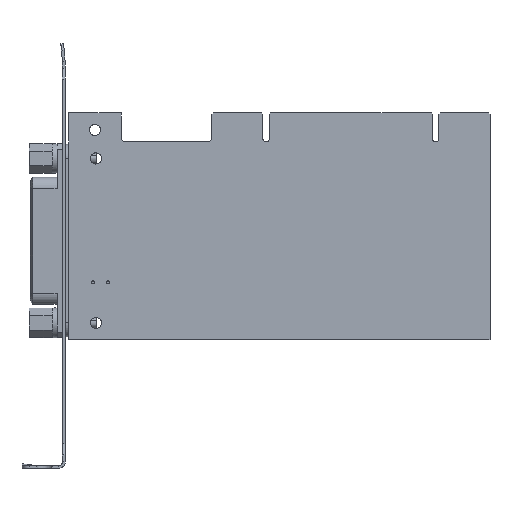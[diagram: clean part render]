
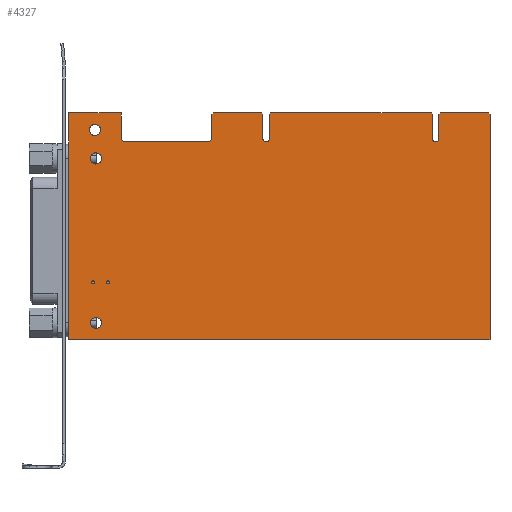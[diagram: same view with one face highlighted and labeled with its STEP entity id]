
A CAD part, left-side view. The second image highlights one B-rep face of the part: STEP entity #4327.
In plain terms, the highlighted planar face has unit normal (-1, 0, 0).
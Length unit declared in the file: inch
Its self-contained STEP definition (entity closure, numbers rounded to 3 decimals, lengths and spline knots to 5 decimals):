
#1=DIRECTION('',(0.,-1.,0.));
#2=VECTOR('',#1,4.721);
#3=CARTESIAN_POINT('',(0.,5.25,-2.54));
#4=LINE('',#3,#2);
#5=DIRECTION('',(0.,0.,1.));
#6=VECTOR('',#5,2.54);
#7=CARTESIAN_POINT('',(0.,5.25,-2.54));
#8=LINE('',#7,#6);
#9=DIRECTION('',(0.,-1.,0.));
#10=VECTOR('',#9,0.591);
#11=CARTESIAN_POINT('',(0.,5.25,0.));
#12=LINE('',#11,#10);
#13=DIRECTION('',(0.,0.,-1.));
#14=VECTOR('',#13,0.278);
#15=CARTESIAN_POINT('',(0.,4.659,0.));
#16=LINE('',#15,#14);
#17=CARTESIAN_POINT('',(0.,4.612,-0.278));
#18=DIRECTION('',(-1.,0.,0.));
#19=DIRECTION('',(0.,1.,0.));
#20=AXIS2_PLACEMENT_3D('',#17,#18,#19);
#22=DIRECTION('',(0.,-1.,0.));
#23=VECTOR('',#22,0.92);
#24=CARTESIAN_POINT('',(0.,4.612,-0.325));
#25=LINE('',#24,#23);
#26=CARTESIAN_POINT('',(0.,3.692,-0.278));
#27=DIRECTION('',(-1.,0.,0.));
#28=DIRECTION('',(0.,0.,-1.));
#29=AXIS2_PLACEMENT_3D('',#26,#27,#28);
#31=DIRECTION('',(0.,0.,1.));
#32=VECTOR('',#31,0.263);
#33=CARTESIAN_POINT('',(0.,3.645,-0.278));
#34=LINE('',#33,#32);
#35=DIRECTION('',(0.,-1.,0.));
#36=VECTOR('',#35,0.5415);
#37=CARTESIAN_POINT('',(0.,3.63,0.));
#38=LINE('',#37,#36);
#39=DIRECTION('',(0.,0.,-1.));
#40=VECTOR('',#39,0.2735);
#41=CARTESIAN_POINT('',(0.,3.0735,-0.015));
#42=LINE('',#41,#40);
#43=CARTESIAN_POINT('',(0.,3.037,-0.2885));
#44=DIRECTION('',(1.,0.,0.));
#45=DIRECTION('',(0.,-1.,0.));
#46=AXIS2_PLACEMENT_3D('',#43,#44,#45);
#48=DIRECTION('',(0.,0.,-1.));
#49=VECTOR('',#48,0.2735);
#50=CARTESIAN_POINT('',(0.,3.0005,-0.015));
#51=LINE('',#50,#49);
#52=DIRECTION('',(0.,-1.,0.));
#53=VECTOR('',#52,1.797);
#54=CARTESIAN_POINT('',(0.,2.9855,0.));
#55=LINE('',#54,#53);
#56=DIRECTION('',(0.,0.,-1.));
#57=VECTOR('',#56,0.2735);
#58=CARTESIAN_POINT('',(0.,1.1735,-0.015));
#59=LINE('',#58,#57);
#60=CARTESIAN_POINT('',(0.,1.137,-0.2885));
#61=DIRECTION('',(1.,0.,0.));
#62=DIRECTION('',(0.,-1.,0.));
#63=AXIS2_PLACEMENT_3D('',#60,#61,#62);
#65=DIRECTION('',(0.,0.,-1.));
#66=VECTOR('',#65,0.2735);
#67=CARTESIAN_POINT('',(0.,1.1005,-0.015));
#68=LINE('',#67,#66);
#69=DIRECTION('',(0.,-1.,0.));
#70=VECTOR('',#69,0.5415);
#71=CARTESIAN_POINT('',(0.,1.0855,0.));
#72=LINE('',#71,#70);
#73=CARTESIAN_POINT('',(0.,4.955,-0.19));
#74=DIRECTION('',(-1.,0.,0.));
#75=DIRECTION('',(0.,-1.,0.));
#76=AXIS2_PLACEMENT_3D('',#73,#74,#75);
#78=CARTESIAN_POINT('',(0.,4.955,-0.19));
#79=DIRECTION('',(-1.,0.,0.));
#80=DIRECTION('',(0.,1.,0.));
#81=AXIS2_PLACEMENT_3D('',#78,#79,#80);
#83=CARTESIAN_POINT('',(0.,4.975,-1.899));
#84=DIRECTION('',(1.,0.,0.));
#85=DIRECTION('',(0.,-1.,0.));
#86=AXIS2_PLACEMENT_3D('',#83,#84,#85);
#88=CARTESIAN_POINT('',(0.,4.975,-1.899));
#89=DIRECTION('',(1.,0.,0.));
#90=DIRECTION('',(0.,1.,0.));
#91=AXIS2_PLACEMENT_3D('',#88,#89,#90);
#93=CARTESIAN_POINT('',(0.,4.81,-1.899));
#94=DIRECTION('',(1.,0.,0.));
#95=DIRECTION('',(0.,-1.,0.));
#96=AXIS2_PLACEMENT_3D('',#93,#94,#95);
#98=CARTESIAN_POINT('',(0.,4.81,-1.899));
#99=DIRECTION('',(1.,0.,0.));
#100=DIRECTION('',(0.,1.,0.));
#101=AXIS2_PLACEMENT_3D('',#98,#99,#100);
#103=CARTESIAN_POINT('',(0.,4.94363,-2.352));
#104=DIRECTION('',(1.,0.,0.));
#105=DIRECTION('',(0.,-1.,0.));
#106=AXIS2_PLACEMENT_3D('',#103,#104,#105);
#108=CARTESIAN_POINT('',(0.,4.94363,-2.352));
#109=DIRECTION('',(1.,0.,0.));
#110=DIRECTION('',(0.,1.,0.));
#111=AXIS2_PLACEMENT_3D('',#108,#109,#110);
#113=CARTESIAN_POINT('',(0.,4.94363,-0.51));
#114=DIRECTION('',(1.,0.,0.));
#115=DIRECTION('',(0.,-1.,0.));
#116=AXIS2_PLACEMENT_3D('',#113,#114,#115);
#118=CARTESIAN_POINT('',(0.,4.94363,-0.51));
#119=DIRECTION('',(1.,0.,0.));
#120=DIRECTION('',(0.,1.,0.));
#121=AXIS2_PLACEMENT_3D('',#118,#119,#120);
#127=DIRECTION('',(0.,0.,1.));
#128=VECTOR('',#127,2.525);
#129=CARTESIAN_POINT('',(0.,0.529,-2.54));
#130=LINE('',#129,#128);
#269=DIRECTION('',(0.,0.707,0.707));
#270=VECTOR('',#269,0.02121);
#271=CARTESIAN_POINT('',(0.,0.529,-0.015));
#272=LINE('',#271,#270);
#285=DIRECTION('',(0.,0.707,-0.707));
#286=VECTOR('',#285,0.02121);
#287=CARTESIAN_POINT('',(0.,1.0855,0.));
#288=LINE('',#287,#286);
#317=DIRECTION('',(0.,-0.707,-0.707));
#318=VECTOR('',#317,0.02121);
#319=CARTESIAN_POINT('',(0.,1.1885,0.));
#320=LINE('',#319,#318);
#325=DIRECTION('',(0.,0.707,-0.707));
#326=VECTOR('',#325,0.02121);
#327=CARTESIAN_POINT('',(0.,2.9855,0.));
#328=LINE('',#327,#326);
#357=DIRECTION('',(0.,-0.707,-0.707));
#358=VECTOR('',#357,0.02121);
#359=CARTESIAN_POINT('',(0.,3.0885,0.));
#360=LINE('',#359,#358);
#365=DIRECTION('',(0.,0.707,-0.707));
#366=VECTOR('',#365,0.02121);
#367=CARTESIAN_POINT('',(0.,3.63,0.));
#368=LINE('',#367,#366);
#3272=CARTESIAN_POINT('',(0.,5.25,0.));
#3273=CARTESIAN_POINT('',(0.,4.659,0.));
#3274=VERTEX_POINT('',#3272);
#3275=VERTEX_POINT('',#3273);
#3276=CARTESIAN_POINT('',(0.,4.659,-0.278));
#3277=VERTEX_POINT('',#3276);
#3278=CARTESIAN_POINT('',(0.,4.612,-0.325));
#3279=VERTEX_POINT('',#3278);
#3280=CARTESIAN_POINT('',(0.,3.692,-0.325));
#3281=VERTEX_POINT('',#3280);
#3282=CARTESIAN_POINT('',(0.,3.645,-0.278));
#3283=VERTEX_POINT('',#3282);
#3296=CARTESIAN_POINT('',(0.,3.63,0.));
#3298=VERTEX_POINT('',#3296);
#3300=CARTESIAN_POINT('',(0.,3.645,-0.015));
#3302=VERTEX_POINT('',#3300);
#3304=CARTESIAN_POINT('',(0.,4.8925,-0.19));
#3305=CARTESIAN_POINT('',(0.,5.0175,-0.19));
#3306=VERTEX_POINT('',#3304);
#3307=VERTEX_POINT('',#3305);
#3312=CARTESIAN_POINT('',(0.,0.529,-0.015));
#3314=VERTEX_POINT('',#3312);
#3316=CARTESIAN_POINT('',(0.,0.544,0.));
#3318=VERTEX_POINT('',#3316);
#3320=CARTESIAN_POINT('',(0.,1.1005,-0.2885));
#3321=CARTESIAN_POINT('',(0.,1.1735,-0.2885));
#3322=VERTEX_POINT('',#3320);
#3323=VERTEX_POINT('',#3321);
#3328=CARTESIAN_POINT('',(0.,3.0005,-0.2885));
#3329=CARTESIAN_POINT('',(0.,3.0735,-0.2885));
#3330=VERTEX_POINT('',#3328);
#3331=VERTEX_POINT('',#3329);
#3336=CARTESIAN_POINT('',(0.,3.0885,0.));
#3338=VERTEX_POINT('',#3336);
#3340=CARTESIAN_POINT('',(0.,3.0735,-0.015));
#3342=VERTEX_POINT('',#3340);
#3344=CARTESIAN_POINT('',(0.,2.9855,0.));
#3346=VERTEX_POINT('',#3344);
#3348=CARTESIAN_POINT('',(0.,3.0005,-0.015));
#3350=VERTEX_POINT('',#3348);
#3352=CARTESIAN_POINT('',(0.,1.1885,0.));
#3354=VERTEX_POINT('',#3352);
#3356=CARTESIAN_POINT('',(0.,1.1735,-0.015));
#3358=VERTEX_POINT('',#3356);
#3360=CARTESIAN_POINT('',(0.,1.0855,0.));
#3362=VERTEX_POINT('',#3360);
#3364=CARTESIAN_POINT('',(0.,1.1005,-0.015));
#3366=VERTEX_POINT('',#3364);
#3368=CARTESIAN_POINT('',(0.,4.9575,-1.899));
#3369=CARTESIAN_POINT('',(0.,4.9925,-1.899));
#3370=VERTEX_POINT('',#3368);
#3371=VERTEX_POINT('',#3369);
#3372=CARTESIAN_POINT('',(0.,4.7925,-1.899));
#3373=CARTESIAN_POINT('',(0.,4.8275,-1.899));
#3374=VERTEX_POINT('',#3372);
#3375=VERTEX_POINT('',#3373);
#3384=CARTESIAN_POINT('',(0.,4.88113,-2.352));
#3385=CARTESIAN_POINT('',(0.,5.00613,-2.352));
#3386=VERTEX_POINT('',#3384);
#3387=VERTEX_POINT('',#3385);
#3388=CARTESIAN_POINT('',(0.,4.88113,-0.51));
#3389=CARTESIAN_POINT('',(0.,5.00613,-0.51));
#3390=VERTEX_POINT('',#3388);
#3391=VERTEX_POINT('',#3389);
#3392=CARTESIAN_POINT('',(0.,5.25,-2.54));
#3394=VERTEX_POINT('',#3392);
#3396=CARTESIAN_POINT('',(0.,0.529,-2.54));
#3398=VERTEX_POINT('',#3396);
#4242=CARTESIAN_POINT('',(0.,4.955,-0.19));
#4243=DIRECTION('',(1.,0.,0.));
#4244=DIRECTION('',(0.,-1.,0.));
#4245=AXIS2_PLACEMENT_3D('',#4242,#4243,#4244);
#4246=PLANE('',#4245);
#4248=ORIENTED_EDGE('',*,*,#4247,.F.);
#4250=ORIENTED_EDGE('',*,*,#4249,.F.);
#4252=ORIENTED_EDGE('',*,*,#4251,.T.);
#4254=ORIENTED_EDGE('',*,*,#4253,.T.);
#4256=ORIENTED_EDGE('',*,*,#4255,.T.);
#4258=ORIENTED_EDGE('',*,*,#4257,.T.);
#4260=ORIENTED_EDGE('',*,*,#4259,.T.);
#4262=ORIENTED_EDGE('',*,*,#4261,.T.);
#4264=ORIENTED_EDGE('',*,*,#4263,.T.);
#4266=ORIENTED_EDGE('',*,*,#4265,.F.);
#4268=ORIENTED_EDGE('',*,*,#4267,.T.);
#4270=ORIENTED_EDGE('',*,*,#4269,.T.);
#4272=ORIENTED_EDGE('',*,*,#4271,.T.);
#4274=ORIENTED_EDGE('',*,*,#4273,.F.);
#4276=ORIENTED_EDGE('',*,*,#4275,.F.);
#4278=ORIENTED_EDGE('',*,*,#4277,.F.);
#4280=ORIENTED_EDGE('',*,*,#4279,.T.);
#4282=ORIENTED_EDGE('',*,*,#4281,.T.);
#4284=ORIENTED_EDGE('',*,*,#4283,.T.);
#4286=ORIENTED_EDGE('',*,*,#4285,.F.);
#4288=ORIENTED_EDGE('',*,*,#4287,.F.);
#4290=ORIENTED_EDGE('',*,*,#4289,.F.);
#4292=ORIENTED_EDGE('',*,*,#4291,.T.);
#4294=ORIENTED_EDGE('',*,*,#4293,.F.);
#4295=EDGE_LOOP('',(#4248,#4250,#4252,#4254,#4256,#4258,#4260,#4262,#4264,#4266,
#4268,#4270,#4272,#4274,#4276,#4278,#4280,#4282,#4284,#4286,#4288,#4290,#4292,
#4294));
#4296=FACE_OUTER_BOUND('',#4295,.F.);
#4298=ORIENTED_EDGE('',*,*,#4297,.T.);
#4300=ORIENTED_EDGE('',*,*,#4299,.T.);
#4301=EDGE_LOOP('',(#4298,#4300));
#4302=FACE_BOUND('',#4301,.F.);
#4304=ORIENTED_EDGE('',*,*,#4303,.F.);
#4306=ORIENTED_EDGE('',*,*,#4305,.F.);
#4307=EDGE_LOOP('',(#4304,#4306));
#4308=FACE_BOUND('',#4307,.F.);
#4310=ORIENTED_EDGE('',*,*,#4309,.F.);
#4312=ORIENTED_EDGE('',*,*,#4311,.F.);
#4313=EDGE_LOOP('',(#4310,#4312));
#4314=FACE_BOUND('',#4313,.F.);
#4316=ORIENTED_EDGE('',*,*,#4315,.F.);
#4318=ORIENTED_EDGE('',*,*,#4317,.F.);
#4319=EDGE_LOOP('',(#4316,#4318));
#4320=FACE_BOUND('',#4319,.F.);
#4322=ORIENTED_EDGE('',*,*,#4321,.F.);
#4324=ORIENTED_EDGE('',*,*,#4323,.F.);
#4325=EDGE_LOOP('',(#4322,#4324));
#4326=FACE_BOUND('',#4325,.F.);
#4327=ADVANCED_FACE('',(#4296,#4302,#4308,#4314,#4320,#4326),#4246,.F.);
#21=CIRCLE('',#20,0.047);
#30=CIRCLE('',#29,0.047);
#47=CIRCLE('',#46,0.0365);
#64=CIRCLE('',#63,0.0365);
#77=CIRCLE('',#76,0.0625);
#82=CIRCLE('',#81,0.0625);
#87=CIRCLE('',#86,0.0175);
#92=CIRCLE('',#91,0.0175);
#97=CIRCLE('',#96,0.0175);
#102=CIRCLE('',#101,0.0175);
#107=CIRCLE('',#106,0.0625);
#112=CIRCLE('',#111,0.0625);
#117=CIRCLE('',#116,0.0625);
#122=CIRCLE('',#121,0.0625);
#4247=EDGE_CURVE('',#3398,#3314,#130,.T.);
#4249=EDGE_CURVE('',#3394,#3398,#4,.T.);
#4251=EDGE_CURVE('',#3394,#3274,#8,.T.);
#4253=EDGE_CURVE('',#3274,#3275,#12,.T.);
#4255=EDGE_CURVE('',#3275,#3277,#16,.T.);
#4257=EDGE_CURVE('',#3277,#3279,#21,.T.);
#4259=EDGE_CURVE('',#3279,#3281,#25,.T.);
#4261=EDGE_CURVE('',#3281,#3283,#30,.T.);
#4263=EDGE_CURVE('',#3283,#3302,#34,.T.);
#4265=EDGE_CURVE('',#3298,#3302,#368,.T.);
#4267=EDGE_CURVE('',#3298,#3338,#38,.T.);
#4269=EDGE_CURVE('',#3338,#3342,#360,.T.);
#4271=EDGE_CURVE('',#3342,#3331,#42,.T.);
#4273=EDGE_CURVE('',#3330,#3331,#47,.T.);
#4275=EDGE_CURVE('',#3350,#3330,#51,.T.);
#4277=EDGE_CURVE('',#3346,#3350,#328,.T.);
#4279=EDGE_CURVE('',#3346,#3354,#55,.T.);
#4281=EDGE_CURVE('',#3354,#3358,#320,.T.);
#4283=EDGE_CURVE('',#3358,#3323,#59,.T.);
#4285=EDGE_CURVE('',#3322,#3323,#64,.T.);
#4287=EDGE_CURVE('',#3366,#3322,#68,.T.);
#4289=EDGE_CURVE('',#3362,#3366,#288,.T.);
#4291=EDGE_CURVE('',#3362,#3318,#72,.T.);
#4293=EDGE_CURVE('',#3314,#3318,#272,.T.);
#4297=EDGE_CURVE('',#3306,#3307,#77,.T.);
#4299=EDGE_CURVE('',#3307,#3306,#82,.T.);
#4303=EDGE_CURVE('',#3370,#3371,#87,.T.);
#4305=EDGE_CURVE('',#3371,#3370,#92,.T.);
#4309=EDGE_CURVE('',#3374,#3375,#97,.T.);
#4311=EDGE_CURVE('',#3375,#3374,#102,.T.);
#4315=EDGE_CURVE('',#3386,#3387,#107,.T.);
#4317=EDGE_CURVE('',#3387,#3386,#112,.T.);
#4321=EDGE_CURVE('',#3390,#3391,#117,.T.);
#4323=EDGE_CURVE('',#3391,#3390,#122,.T.);
